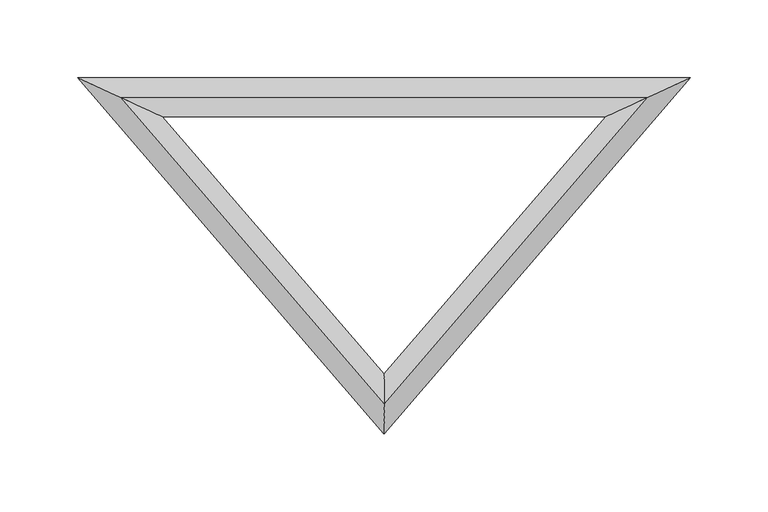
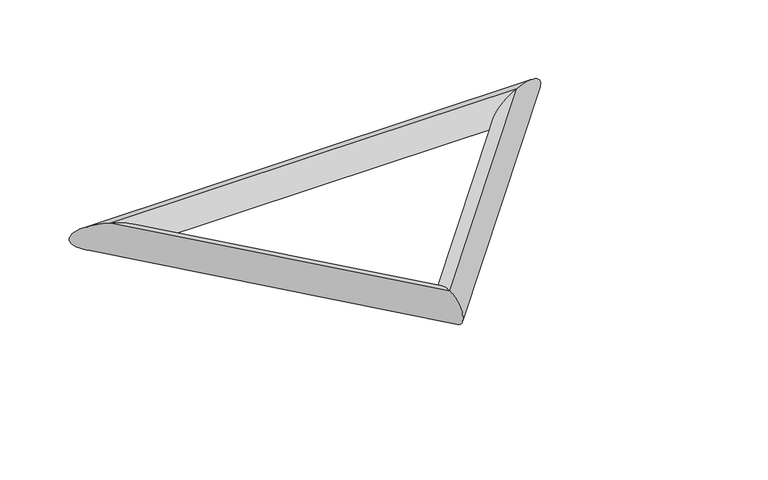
"""IFC4 building model written with IfcOpenShell, lengths in millimetres: plate geometry, ZZK PilotoBIM : ZZK PilotoBIM."""

from ifc_helpers import new_model, si_unit, frame, origin, place, context, project, spatial, ellipse_curve, source, transform, mapped, element, save
from ifc_brep_helpers import cylinder_surface, advanced_brep


def plate_b1349e85(model_context):
    return source(origin(), model_context, "Body", "AdvancedBrep", [
        advanced_brep(
        [(6265.2739015, 5145.625, 12.5), (6265.2739015, 5145.625, -12.5), (5926.7260985, 5145.625, -12.5), (5926.7260985, 5145.625, 12.5), (6096.0, 4948.75, -12.5), (6096.0, 4948.75, 12.5)],
        [
            (0, 1, ellipse_curve(frame((6265.2739015, 5145.625, 0.0), z_axis=(-0.41716075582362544, 0.9088327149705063, 0.0), x_axis=(0.9088327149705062, 0.41716075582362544, 0.0)), 29.9644677, 12.5)),
            (1, 2),
            (2, 3, ellipse_curve(frame((5926.7260985, 5145.625, 0.0), z_axis=(0.4171607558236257, 0.9088327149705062, 0.0), x_axis=(0.9088327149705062, -0.4171607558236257, 0.0)), 29.9644677, 12.5)),
            (3, 0),
            (1, 0, ellipse_curve(frame((6265.2739015, 5145.625, 0.0), z_axis=(-0.41716075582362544, 0.9088327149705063, 0.0), x_axis=(0.9088327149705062, 0.41716075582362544, 0.0)), 29.9644677, 12.5)),
            (3, 2, ellipse_curve(frame((5926.7260985, 5145.625, 0.0), z_axis=(0.4171607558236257, 0.9088327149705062, 0.0), x_axis=(0.9088327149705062, -0.4171607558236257, 0.0)), 29.9644677, 12.5)),
            (2, 4),
            (4, 5, ellipse_curve(frame((6096.0, 4948.75, 0.0), z_axis=(-1.0, 0.0, 0.0), x_axis=(0.0, 1.0, 0.0)), 19.1731375, 12.5)),
            (5, 3),
            (5, 4, ellipse_curve(frame((6096.0, 4948.75, 0.0), z_axis=(-1.0, 0.0, 0.0), x_axis=(0.0, 1.0, 0.0)), 19.1731375, 12.5)),
            (4, 1),
            (0, 5),
        ],
        [
            cylinder_surface(frame((6265.2739015, 5145.625, 0.0), z_axis=(1.0, 0.0, 0.0), x_axis=(0.0, 1.0, 0.0)), 12.5),
            cylinder_surface(frame((5926.7260985, 5145.625, 0.0), z_axis=(-0.6519538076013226, 0.7582586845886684, 0.0), x_axis=(-0.7582586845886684, -0.6519538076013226, 0.0)), 12.5),
            cylinder_surface(frame((6096.0, 4948.75, 0.0), z_axis=(-0.651953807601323, -0.7582586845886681, 0.0), x_axis=(0.7582586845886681, -0.651953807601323, 0.0)), 12.5),
        ],
        [
            (0, [[1, 2, 3, 4]]),
            (0, [[5, -4, 6, -2]]),
            (1, [[-3, 7, 8, 9]]),
            (1, [[-6, -9, 10, -7]]),
            (2, [[-8, 11, -1, 12]]),
            (2, [[-10, -12, -5, -11]]),
        ],
    ),
    ])


if __name__ == "__main__":
    model = new_model("IFC4")
    model_context = context("Model", 3, world=origin())
    ifc_project = project(units=[si_unit("LENGTHUNIT", "METRE", prefix="MILLI")], contexts=[model_context])
    site = spatial("IfcSite", under=ifc_project)
    building = spatial("IfcBuilding", under=site)
    placement = place(None, origin())
    plate_shape = plate_b1349e85(model_context)
    element("IfcPlate", 1, ObjectType="ZZK PilotoBIM : ZZK PilotoBIM", at=placement, inside=building, context=model_context, shape_type="MappedRepresentation", body=[
        mapped(plate_shape, transform((0.0, 0.0, 0.0), x_axis=(1.0, 0.0, 0.0), y_axis=(0.0, 1.0, 0.0), z_axis=(0.0, 0.0, 1.0))),
    ])
    save(model, "model.ifc")
